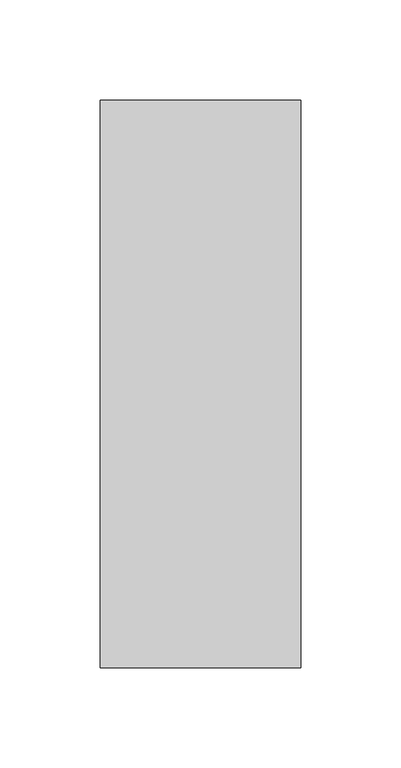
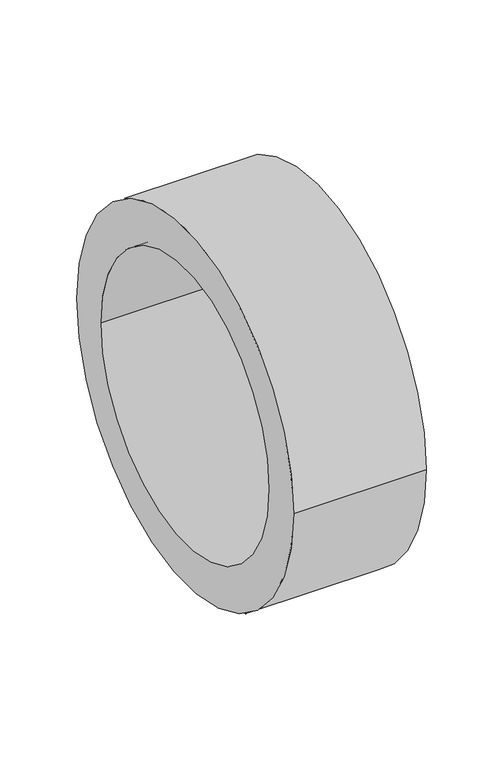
"""IFC4 building model written with IfcOpenShell, lengths in millimetres: pipe fitting geometry, СТ_Подвесы_ДляТруб_IsotermUltima_D10-219_СимфонияТепла : Isoterm UL 32-219."""

import ifcopenshell
import ifcopenshell.guid

model = None  # the IFC model being written
_history = None  # IfcOwnerHistory: only IFC2X3 demands one
_inside = {}  # id of a spatial element -> (the spatial element, [elements in it])
_under = {}  # id of a project, library or spatial element -> (it, [spatial elements below it])
_declared = {}  # id of a project -> (the project, [libraries it declares])
_typed = {}  # id of a type object -> (the type object, [elements of that type])
_made_of = {}  # id of a material, layer set ... -> (it, [elements and type objects made of it])


def new_model(schema):
    """Start an empty IFC model of exactly this schema.

    Asked for "IFC4X3", IfcOpenShell would pick the latest addendum, in which some entities
    have other attributes; the version numbers below select the first issue.
    IFC2X3 requires an IfcOwnerHistory on every rooted entity: one is made here for all.
    """
    global model, _history
    if schema == "IFC4X3":
        model = ifcopenshell.file(schema_version=(4, 3, 0, 0))
    else:
        model = ifcopenshell.file(schema=schema)
    _inside.clear()
    _under.clear()
    _declared.clear()
    _typed.clear()
    _made_of.clear()
    _history = None
    if model.schema == "IFC2X3":
        org = make("IfcOrganization", Name="unknown")
        user = make(
            "IfcPersonAndOrganization",
            ThePerson=make("IfcPerson", FamilyName="unknown"),
            TheOrganization=org,
        )
        app = make(
            "IfcApplication",
            ApplicationDeveloper=org,
            Version="unknown",
            ApplicationFullName="unknown",
            ApplicationIdentifier="unknown",
        )
        _history = make(
            "IfcOwnerHistory",
            OwningUser=user,
            OwningApplication=app,
            ChangeAction="ADDED",
            CreationDate=0,
        )
    return model


def make(cls, **values):
    """One entity of the class cls with the attributes given. An attribute that is None is left unset."""
    return model.create_entity(
        cls, **{name: value for name, value in values.items() if value is not None}
    )


def rooted(cls, **values):
    """An entity with a GlobalId (a new one), such as an element, a storey or a relation."""
    return make(cls, GlobalId=ifcopenshell.guid.new(), OwnerHistory=_history, **values)


def si_unit(unit_type, name, prefix=None):
    """IfcSIUnit, for example si_unit("LENGTHUNIT", "METRE", prefix="MILLI")."""
    return make("IfcSIUnit", UnitType=unit_type, Prefix=prefix, Name=name)


def assignment(units):
    """IfcUnitAssignment: the units of a project."""
    return None if units is None else make("IfcUnitAssignment", Units=units)


def point(xyz):
    """IfcCartesianPoint."""
    return None if xyz is None else make("IfcCartesianPoint", Coordinates=xyz)


def direction(xyz):
    """IfcDirection."""
    return None if xyz is None else make("IfcDirection", DirectionRatios=xyz)


def frame(location, z_axis=None, x_axis=None):
    """IfcAxis2Placement3D, a coordinate frame: its origin and axes. An axis left out is left unset."""
    return make(
        "IfcAxis2Placement3D",
        Location=point(location),
        Axis=direction(z_axis),
        RefDirection=direction(x_axis),
    )


def frame_2d(location, x_axis=None):
    """IfcAxis2Placement2D, a coordinate frame in the plane: its origin and x axis."""
    return make(
        "IfcAxis2Placement2D", Location=point(location), RefDirection=direction(x_axis)
    )


def origin():
    """The frame at (0, 0, 0) with its axes left unset."""
    return frame((0.0, 0.0, 0.0))


def origin_2d():
    """The frame at (0, 0) in the plane with its x axis left unset."""
    return frame_2d((0.0, 0.0))


def place(relative_to, where):
    """IfcLocalPlacement: puts the frame where relative to a parent placement (None: the world)."""
    return make(
        "IfcLocalPlacement", PlacementRelTo=relative_to, RelativePlacement=where
    )


def context(
    kind, dimensions, precision=None, world=None, true_north=None, identifier=None
):
    """IfcGeometricRepresentationContext, for example the 3D "Model" context."""
    return make(
        "IfcGeometricRepresentationContext",
        ContextIdentifier=identifier,
        ContextType=kind,
        CoordinateSpaceDimension=dimensions,
        Precision=precision,
        WorldCoordinateSystem=world,
        TrueNorth=true_north,
    )


def project(units=None, contexts=None):
    """IfcProject with its units and contexts."""
    return rooted(
        "IfcProject",
        Name="project",
        RepresentationContexts=contexts,
        UnitsInContext=assignment(units),
    )


def spatial(cls, under=None, at=None, **own):
    """A site, building, storey or space (cls), placed at a placement, below another one or the project."""
    s = rooted(cls, ObjectPlacement=at, **own)
    if under is not None:
        _under.setdefault(under.id(), (under, []))[1].append(s)
    return s


def circle_curve(where, radius):
    """IfcCircle in the frame where."""
    return make("IfcCircle", Position=where, Radius=radius)


def trimmed(basis, trim1, trim2, sense, master):
    """IfcTrimmedCurve: the piece of a basis curve between two trims."""
    return make(
        "IfcTrimmedCurve",
        BasisCurve=basis,
        Trim1=trim1,
        Trim2=trim2,
        SenseAgreement=sense,
        MasterRepresentation=master,
    )


def segment(curve, same_sense, transition):
    """IfcCompositeCurveSegment."""
    return make(
        "IfcCompositeCurveSegment",
        Transition=transition,
        SameSense=same_sense,
        ParentCurve=curve,
    )


def composite_curve(segments, self_intersect=None):
    """IfcCompositeCurve: segments joined end to end."""
    return make("IfcCompositeCurve", Segments=segments, SelfIntersect=self_intersect)


def outline(outer, holes=None, kind="AREA"):
    """IfcArbitraryClosedProfileDef: a profile drawn as a closed curve; with holes, ...WithVoids."""
    if holes is None:
        return make("IfcArbitraryClosedProfileDef", ProfileType=kind, OuterCurve=outer)
    return make(
        "IfcArbitraryProfileDefWithVoids",
        ProfileType=kind,
        OuterCurve=outer,
        InnerCurves=holes,
    )


def extrude(swept, where, along, depth):
    """IfcExtrudedAreaSolid: the profile swept, set in the frame where, extruded along a direction by depth."""
    return make(
        "IfcExtrudedAreaSolid",
        SweptArea=swept,
        Position=where,
        ExtrudedDirection=direction(along),
        Depth=depth,
    )


def shape(context_of_items, identifier, shape_type, items):
    """IfcShapeRepresentation: the items that make up one representation, for example the "Body"."""
    return make(
        "IfcShapeRepresentation",
        ContextOfItems=context_of_items,
        RepresentationIdentifier=identifier,
        RepresentationType=shape_type,
        Items=items,
    )


def source(mapping_origin, context_of_items, identifier, shape_type, items):
    """IfcRepresentationMap: a shape defined once, which mapped items show again and again."""
    return make(
        "IfcRepresentationMap",
        MappingOrigin=mapping_origin,
        MappedRepresentation=shape(context_of_items, identifier, shape_type, items),
    )


def transform(
    local_origin,
    x_axis=None,
    y_axis=None,
    z_axis=None,
    scale=None,
    scale2=None,
    scale3=None,
    uniform=True,
):
    """IfcCartesianTransformationOperator3D, or its non-uniform kind. x_axis, y_axis, z_axis: its Axis1, 2, 3."""
    if uniform:
        return make(
            "IfcCartesianTransformationOperator3D",
            Axis1=direction(x_axis),
            Axis2=direction(y_axis),
            LocalOrigin=point(local_origin),
            Scale=scale,
            Axis3=direction(z_axis),
        )
    return make(
        "IfcCartesianTransformationOperator3DnonUniform",
        Axis1=direction(x_axis),
        Axis2=direction(y_axis),
        LocalOrigin=point(local_origin),
        Scale=scale,
        Axis3=direction(z_axis),
        Scale2=scale2,
        Scale3=scale3,
    )


def mapped(mapping_source, mapping_target):
    """IfcMappedItem: shows the shape of a source again, moved by a transform."""
    return make(
        "IfcMappedItem", MappingSource=mapping_source, MappingTarget=mapping_target
    )


def made_of(thing, what):
    """Note that an element or type object is made of a material, layer set ...; save() writes the relation."""
    if what is not None:
        _made_of.setdefault(what.id(), (what, []))[1].append(thing)
    return thing


def element(
    cls,
    number,
    at=None,
    inside=None,
    cuts=None,
    type_object=None,
    material=None,
    context=None,
    identifier="Body",
    shape_type=None,
    held_by="IfcProductDefinitionShape",
    body=None,
    shapes=None,
    **own,
):
    """One element of the class cls, such as IfcWall. Its Tag is "e" and its number.

    at: its placement. inside: the storey or other place that contains it. cuts: it is an
    opening in that element (IfcRelVoidsElement). A single representation is given by context,
    identifier, shape_type and body (its items); several are given by shapes. held_by: the class
    of the entity that holds the representations. save() writes the other relations.
    """
    e = rooted(cls, Tag="e%d" % number, ObjectPlacement=at, **own)
    if body is not None:
        shapes = [shape(context, identifier, shape_type, body)]
    if shapes is not None:
        e.Representation = make(held_by, Representations=shapes)
    if inside is not None:
        _inside.setdefault(inside.id(), (inside, []))[1].append(e)
    if cuts is not None:
        rooted(
            "IfcRelVoidsElement", RelatingBuildingElement=cuts, RelatedOpeningElement=e
        )
    if type_object is not None:
        _typed.setdefault(type_object.id(), (type_object, []))[1].append(e)
    return made_of(e, material)


def aggregate(whole, parts):
    """IfcRelAggregates: a whole, such as a stair, and the parts it consists of."""
    return rooted("IfcRelAggregates", RelatingObject=whole, RelatedObjects=parts)


def save(model, path):
    """Write the relations noted so far, then the file.

    IfcRelAggregates (storeys below a building ...), IfcRelContainedInSpatialStructure (elements
    in a storey), IfcRelDefinesByType, IfcRelAssociatesMaterial and IfcRelDeclares: one each for
    every whole, place, type object, material and project.
    """
    for whole, parts in _under.values():
        aggregate(whole, parts)
    for where, things in _inside.values():
        rooted(
            "IfcRelContainedInSpatialStructure",
            RelatedElements=things,
            RelatingStructure=where,
        )
    for kind, things in _typed.values():
        rooted("IfcRelDefinesByType", RelatedObjects=things, RelatingType=kind)
    for what, things in _made_of.values():
        rooted("IfcRelAssociatesMaterial", RelatedObjects=things, RelatingMaterial=what)
    for by, libraries in _declared.values():
        rooted("IfcRelDeclares", RelatingContext=by, RelatedDefinitions=libraries)
    model.write(path)


def pipe_fitting_6f64aa49(model_context):
    return source(origin(), model_context, "Body", "SweptSolid", [
        extrude(outline(composite_curve([segment(trimmed(circle_curve(origin_2d(), 141.5), [point((-141.5, 0.0))], [point((141.5, 0.0))], False, "CARTESIAN"), True, "CONTINUOUS"), segment(trimmed(circle_curve(origin_2d(), 141.5), [point((141.5, 0.0))], [point((-141.5, 0.0))], False, "CARTESIAN"), True, "CONTINUOUS")], self_intersect=False), holes=[composite_curve([segment(trimmed(circle_curve(origin_2d(), 109.5), [point((-109.5, 0.0))], [point((109.5, 0.0))], True, "CARTESIAN"), True, "CONTINUOUS"), segment(trimmed(circle_curve(origin_2d(), 109.5), [point((109.5, 0.0))], [point((-109.5, 0.0))], True, "CARTESIAN"), True, "CONTINUOUS")], self_intersect=False)]), frame((-50.0, 0.0, 0.0), z_axis=(1.0, 0.0, 0.0), x_axis=(0.0, 1.0, 0.0)), (0.0, 0.0, 1.0), 100.0),
    ])


if __name__ == "__main__":
    model = new_model("IFC4")
    model_context = context("Model", 3, world=origin())
    ifc_project = project(units=[si_unit("LENGTHUNIT", "METRE", prefix="MILLI")], contexts=[model_context])
    site = spatial("IfcSite", under=ifc_project)
    building = spatial("IfcBuilding", under=site)
    placement = place(None, origin())
    pipe_fitting_shape = pipe_fitting_6f64aa49(model_context)
    element("IfcPipeFitting", 1, ObjectType="СТ_Подвесы_ДляТруб_IsotermUltima_D10-219_СимфонияТепла : Isoterm UL 32-219", at=placement, inside=building, context=model_context, shape_type="MappedRepresentation", body=[
        mapped(pipe_fitting_shape, transform((0.0, 0.0, 0.0), x_axis=(1.0, 0.0, 0.0), y_axis=(0.0, 1.0, 0.0), z_axis=(0.0, 0.0, 1.0))),
    ])
    save(model, "model.ifc")
